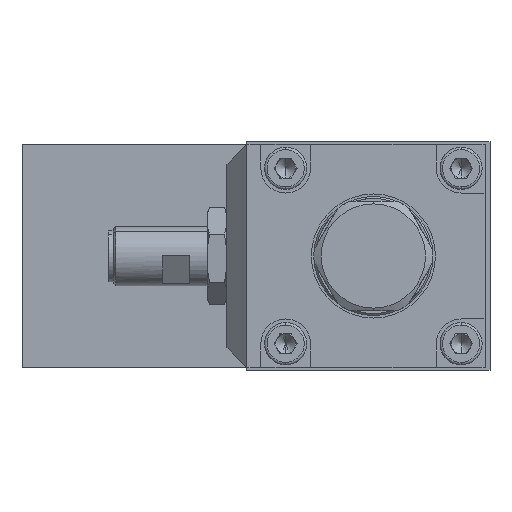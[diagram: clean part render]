
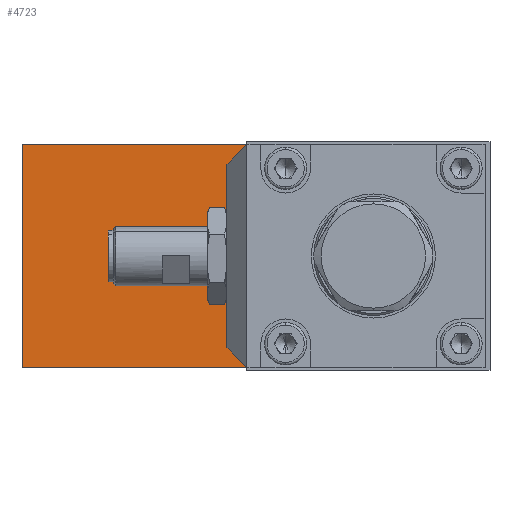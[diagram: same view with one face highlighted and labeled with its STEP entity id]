
A CAD part, left-side view. The second image highlights one B-rep face of the part: STEP entity #4723.
In plain terms, the highlighted planar face has unit normal (-1, 0, 0).
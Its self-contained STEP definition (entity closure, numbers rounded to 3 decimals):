
#542 = VERTEX_POINT ( 'NONE', #33213 ) ;
#975 = CIRCLE ( 'NONE', #17741, 11. ) ;
#1001 = CARTESIAN_POINT ( 'NONE',  ( 73., -23.5, -22.5 ) ) ;
#1510 = DIRECTION ( 'NONE',  ( 1., 0., 0. ) ) ;
#1520 = CARTESIAN_POINT ( 'NONE',  ( 73., -1., 0. ) ) ;
#1571 = ORIENTED_EDGE ( 'NONE', *, *, #13497, .T. ) ;
#3561 = CARTESIAN_POINT ( 'NONE',  ( 73., -23.5, 22.5 ) ) ;
#4120 = ORIENTED_EDGE ( 'NONE', *, *, #27383, .F. ) ;
#4264 = DIRECTION ( 'NONE',  ( 0., 0., 1. ) ) ;
#4580 = FACE_OUTER_BOUND ( 'NONE', #9055, .T. ) ;
#4723 = ADVANCED_FACE ( 'NONE', ( #5440, #4580 ), #34262, .F. ) ;
#5053 = LINE ( 'NONE', #29350, #12396 ) ;
#5231 = CARTESIAN_POINT ( 'NONE',  ( 73., -1., 11. ) ) ;
#5440 = FACE_BOUND ( 'NONE', #7101, .T. ) ;
#5496 = VERTEX_POINT ( 'NONE', #13726 ) ;
#5760 = LINE ( 'NONE', #7843, #34981 ) ;
#7101 = EDGE_LOOP ( 'NONE', ( #4120, #8503 ) ) ;
#7843 = CARTESIAN_POINT ( 'NONE',  ( 73., -23.5, -22.5 ) ) ;
#8064 = VERTEX_POINT ( 'NONE', #5231 ) ;
#8336 = CARTESIAN_POINT ( 'NONE',  ( 73., -23.5, 22.5 ) ) ;
#8503 = ORIENTED_EDGE ( 'NONE', *, *, #35004, .F. ) ;
#9055 = EDGE_LOOP ( 'NONE', ( #10987, #25788, #34118, #1571 ) ) ;
#9625 = CARTESIAN_POINT ( 'NONE',  ( 73., -1., 0. ) ) ;
#10181 = DIRECTION ( 'NONE',  ( 0., 0., -1. ) ) ;
#10213 = CARTESIAN_POINT ( 'NONE',  ( 73., -1., -11. ) ) ;
#10695 = EDGE_CURVE ( 'NONE', #16194, #13579, #27424, .T. ) ;
#10987 = ORIENTED_EDGE ( 'NONE', *, *, #10695, .T. ) ;
#11151 = DIRECTION ( 'NONE',  ( 0., 1., 0. ) ) ;
#12396 = VECTOR ( 'NONE', #10181, 1000. ) ;
#12398 = DIRECTION ( 'NONE',  ( 0., 0., 1. ) ) ;
#13497 = EDGE_CURVE ( 'NONE', #542, #16194, #15546, .T. ) ;
#13579 = VERTEX_POINT ( 'NONE', #28931 ) ;
#13726 = CARTESIAN_POINT ( 'NONE',  ( 73., 69.8, -22.5 ) ) ;
#15546 = LINE ( 'NONE', #1001, #22866 ) ;
#16194 = VERTEX_POINT ( 'NONE', #3561 ) ;
#17475 = DIRECTION ( 'NONE',  ( 0., 0., 1. ) ) ;
#17741 = AXIS2_PLACEMENT_3D ( 'NONE', #1520, #20760, #4264 ) ;
#17991 = CARTESIAN_POINT ( 'NONE',  ( 73., 69.8, 22.5 ) ) ;
#20753 = DIRECTION ( 'NONE',  ( 0., 0., -1. ) ) ;
#20760 = DIRECTION ( 'NONE',  ( -1., 0., 0. ) ) ;
#20801 = VERTEX_POINT ( 'NONE', #10213 ) ;
#21545 = AXIS2_PLACEMENT_3D ( 'NONE', #17991, #1510, #20753 ) ;
#22866 = VECTOR ( 'NONE', #17475, 1000. ) ;
#24314 = DIRECTION ( 'NONE',  ( 0., -1., 0. ) ) ;
#24715 = EDGE_CURVE ( 'NONE', #13579, #5496, #5053, .T. ) ;
#25788 = ORIENTED_EDGE ( 'NONE', *, *, #24715, .T. ) ;
#27383 = EDGE_CURVE ( 'NONE', #8064, #20801, #975, .T. ) ;
#27424 = LINE ( 'NONE', #8336, #33860 ) ;
#28828 = DIRECTION ( 'NONE',  ( -1., 0., 0. ) ) ;
#28931 = CARTESIAN_POINT ( 'NONE',  ( 73., 69.8, 22.5 ) ) ;
#29350 = CARTESIAN_POINT ( 'NONE',  ( 73., 69.8, -22.5 ) ) ;
#32518 = CIRCLE ( 'NONE', #35567, 11. ) ;
#32807 = EDGE_CURVE ( 'NONE', #5496, #542, #5760, .T. ) ;
#33213 = CARTESIAN_POINT ( 'NONE',  ( 73., -23.5, -22.5 ) ) ;
#33860 = VECTOR ( 'NONE', #11151, 1000. ) ;
#34118 = ORIENTED_EDGE ( 'NONE', *, *, #32807, .T. ) ;
#34262 = PLANE ( 'NONE',  #21545 ) ;
#34981 = VECTOR ( 'NONE', #24314, 1000. ) ;
#35004 = EDGE_CURVE ( 'NONE', #20801, #8064, #32518, .T. ) ;
#35567 = AXIS2_PLACEMENT_3D ( 'NONE', #9625, #28828, #12398 ) ;
